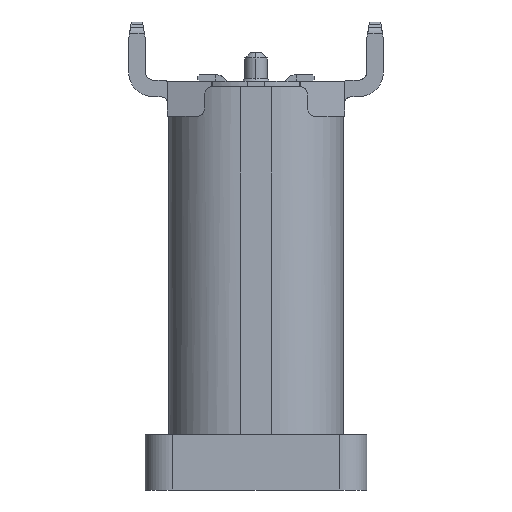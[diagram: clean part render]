
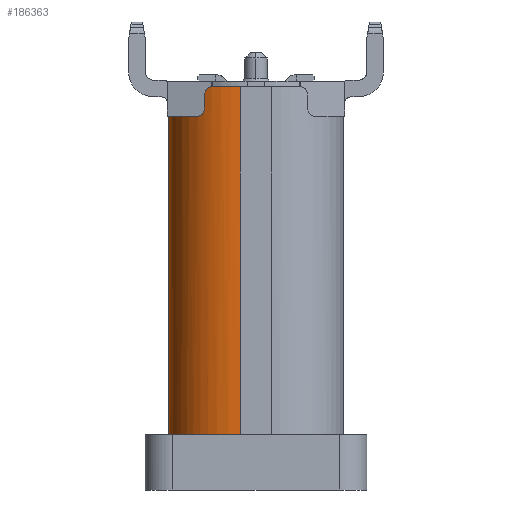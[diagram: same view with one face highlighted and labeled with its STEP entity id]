
A CAD part, left-side view. The second image highlights one B-rep face of the part: STEP entity #186363.
In plain terms, the highlighted cylindrical face has radius 1.3 mm (diameter 2.6 mm), a partial arc.
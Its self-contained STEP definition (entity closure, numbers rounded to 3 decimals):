
#184210=CARTESIAN_POINT('',(-3.17,2.335,-6.827));
#184211=VERTEX_POINT('',#184210);
#184218=CARTESIAN_POINT('',(-3.17,2.335,-1.077));
#184219=VERTEX_POINT('',#184218);
#184220=CARTESIAN_POINT('',(-3.17,2.335,-6.827));
#184221=DIRECTION('',(0.,-0.0,1.0));
#184222=VECTOR('',#184221,1.0);
#184223=LINE('',#184220,#184222);
#184224=EDGE_CURVE('no 2195',#184211,#184219,#184223,.T.);
#184921=CARTESIAN_POINT('',(-4.47,1.035,-6.827));
#184922=VERTEX_POINT('',#184921);
#184929=CARTESIAN_POINT('',(-4.47,1.035,-6.827));
#184930=CARTESIAN_POINT('',(-4.47,1.205,-6.827));
#184931=CARTESIAN_POINT('',(-4.436,1.375,-6.827));
#184932=CARTESIAN_POINT('',(-4.306,1.69,-6.827));
#184933=CARTESIAN_POINT('',(-4.21,1.834,-6.827));
#184934=CARTESIAN_POINT('',(-3.969,2.075,-6.827));
#184935=CARTESIAN_POINT('',(-3.825,2.171,-6.827));
#184936=CARTESIAN_POINT('',(-3.51,2.301,-6.827));
#184937=CARTESIAN_POINT('',(-3.34,2.335,-6.827));
#184938=CARTESIAN_POINT('',(-3.17,2.335,-6.827));
#184939=B_SPLINE_CURVE_WITH_KNOTS('',3,(#184929,#184930,#184931,#184932,#184933,#184934,#184935,#184936,#184937,#184938),.UNSPECIFIED.,.F.,.U.,
 (4,2,2,2,4),(0.0,0.514,1.028,1.541,2.055),.UNSPECIFIED.);
#184940=EDGE_CURVE('no 39957',#184922,#184211,#184939,.T.);
#185363=CARTESIAN_POINT('',(-4.213,1.811,-1.077));
#185364=VERTEX_POINT('',#185363);
#185365=CARTESIAN_POINT('',(-4.213,1.811,-1.077));
#185366=CARTESIAN_POINT('',(-4.091,1.976,-1.077));
#185367=CARTESIAN_POINT('',(-3.938,2.104,-1.077));
#185368=CARTESIAN_POINT('',(-3.57,2.289,-1.077));
#185369=CARTESIAN_POINT('',(-3.375,2.335,-1.077));
#185370=CARTESIAN_POINT('',(-3.17,2.335,-1.077));
#185371=B_SPLINE_CURVE_WITH_KNOTS('',3,(#185365,#185366,#185367,#185368,#185369,#185370),.UNSPECIFIED.,.F.,.U.,
 (4,2,4),(0.0,0.611,1.222),.UNSPECIFIED.);
#185372=EDGE_CURVE('no 245930',#185364,#184219,#185371,.T.);
#186308=CARTESIAN_POINT('',(-4.363,1.551,-0.547));
#186309=VERTEX_POINT('',#186308);
#186310=CARTESIAN_POINT('',(-4.47,1.035,-0.547));
#186311=VERTEX_POINT('',#186310);
#186312=CARTESIAN_POINT('',(-4.363,1.551,-0.547));
#186313=CARTESIAN_POINT('',(-4.433,1.388,-0.547));
#186314=CARTESIAN_POINT('',(-4.47,1.212,-0.547));
#186315=CARTESIAN_POINT('',(-4.47,1.035,-0.547));
#186316=B_SPLINE_CURVE_WITH_KNOTS('',3,(#186312,#186313,#186314,#186315),.UNSPECIFIED.,.F.,.U.,
 (4,4),(0.0,1.0),.UNSPECIFIED.);
#186317=EDGE_CURVE('no 150461',#186309,#186311,#186316,.T.);
#186318=ORIENTED_EDGE('no 119381',*,*,#186317,.F.);
#186319=CARTESIAN_POINT('',(-4.296,1.685,-0.697));
#186320=VERTEX_POINT('',#186319);
#186321=CARTESIAN_POINT('',(-4.363,1.551,-0.547));
#186322=CARTESIAN_POINT('',(-4.353,1.574,-0.547));
#186323=CARTESIAN_POINT('',(-4.339,1.604,-0.553));
#186324=CARTESIAN_POINT('',(-4.31,1.66,-0.6));
#186325=CARTESIAN_POINT('',(-4.296,1.685,-0.643));
#186326=CARTESIAN_POINT('',(-4.296,1.685,-0.697));
#186327=B_SPLINE_CURVE_WITH_KNOTS('',3,(#186321,#186322,#186323,#186324,#186325,#186326),.UNSPECIFIED.,.F.,.U.,
 (4,2,4),(0.0,0.5,1.0),.UNSPECIFIED.);
#186328=EDGE_CURVE('no 37040',#186309,#186320,#186327,.T.);
#186329=ORIENTED_EDGE('no 215328',*,*,#186328,.T.);
#186330=CARTESIAN_POINT('',(-4.296,1.685,-0.927));
#186331=VERTEX_POINT('',#186330);
#186332=CARTESIAN_POINT('',(-4.296,1.685,-0.697));
#186333=DIRECTION('',(0.,0.0,-1.0));
#186334=VECTOR('',#186333,1.0);
#186335=LINE('',#186332,#186334);
#186336=EDGE_CURVE('no 295614',#186320,#186331,#186335,.T.);
#186337=ORIENTED_EDGE('no 87148',*,*,#186336,.T.);
#186338=CARTESIAN_POINT('',(-4.296,1.685,-0.927));
#186339=CARTESIAN_POINT('',(-4.296,1.685,-0.98));
#186340=CARTESIAN_POINT('',(-4.281,1.71,-1.023));
#186341=CARTESIAN_POINT('',(-4.247,1.763,-1.07));
#186342=CARTESIAN_POINT('',(-4.228,1.79,-1.077));
#186343=CARTESIAN_POINT('',(-4.213,1.811,-1.077));
#186344=B_SPLINE_CURVE_WITH_KNOTS('',3,(#186338,#186339,#186340,#186341,#186342,#186343),.UNSPECIFIED.,.F.,.U.,
 (4,2,4),(0.0,0.5,1.0),.UNSPECIFIED.);
#186345=EDGE_CURVE('no 167489',#186331,#185364,#186344,.T.);
#186346=ORIENTED_EDGE('no 105178',*,*,#186345,.T.);
#186347=ORIENTED_EDGE('no 179107',*,*,#185372,.T.);
#186348=ORIENTED_EDGE('no 134603',*,*,#184224,.F.);
#186349=ORIENTED_EDGE('no 13435',*,*,#184940,.F.);
#186350=CARTESIAN_POINT('',(-4.47,1.035,-6.827));
#186351=DIRECTION('',(0.0,0.,1.0));
#186352=VECTOR('',#186351,1.0);
#186353=LINE('',#186350,#186352);
#186354=EDGE_CURVE('no 76307',#184922,#186311,#186353,.T.);
#186355=ORIENTED_EDGE('no 187248',*,*,#186354,.T.);
#186356=EDGE_LOOP('',(#186318,#186329,#186337,#186346,#186347,#186348,#186349,#186355));
#186357=FACE_OUTER_BOUND('',#186356,.T.);
#186358=CARTESIAN_POINT('',(-3.17,1.035,-0.421));
#186359=DIRECTION('',(0.0,0.0,-1.0));
#186360=DIRECTION('',(0.707,-0.707,0.0));
#186361=AXIS2_PLACEMENT_3D('',#186358,#186359,#186360);
#186362=CYLINDRICAL_SURFACE('',#186361,1.3);
#186363=ADVANCED_FACE('no 14216',(#186357),#186362,.T.);
